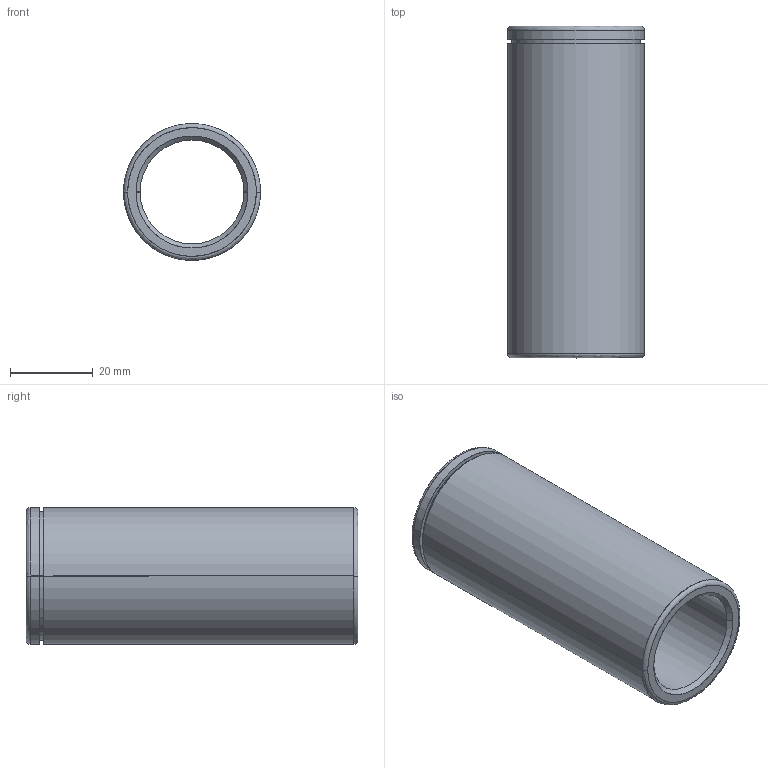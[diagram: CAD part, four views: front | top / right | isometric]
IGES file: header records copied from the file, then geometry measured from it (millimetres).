
Start section: SolidWorks IGES file using analytic representation for surfaces
Global section: file name: D:\Cleonir_arquivos\MT_15_07\Colar De Esferas Tipo 3\CET3-25080.igs; native system: SolidWorks 2013; preprocessor: SolidWorks 2013; author: Cleonir; date: 130728.200039; units: millimetre
Bounding box: 33 x 80 x 33 mm (x, y, z)
Surface area: 15322.5 mm2 (no closed solid volume)
Topology: 0 solids, 0 shells, 293 faces, 3767 edges, 3767 vertices
Faces by surface type: bspline 281, revolution 12
